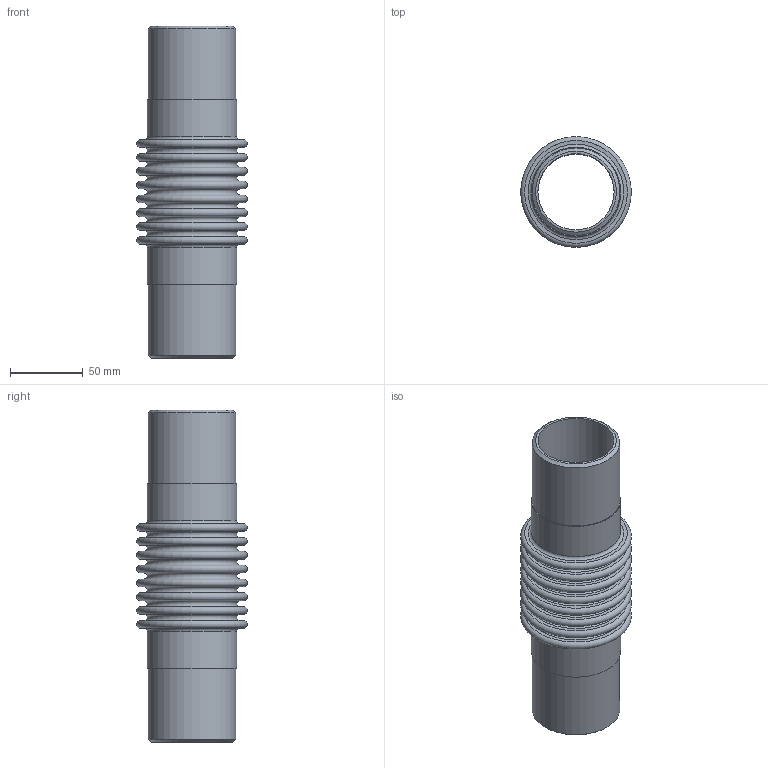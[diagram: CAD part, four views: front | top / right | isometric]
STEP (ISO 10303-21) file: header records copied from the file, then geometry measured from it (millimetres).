
FILE_DESCRIPTION(/* description */ (''),/* implementation_level */ '2;1');
FILE_NAME(/* name */ 'PIPE- 2 - 150 PSIG ASSEMBLY PART.stp',/* time_stamp */ '2026-07-24T15:29:28-05:00',/* author */ ('jorgef'),/* organization */ (''),/* preprocessor_version */ 'ST-DEVELOPER v20.1',/* originating_system */ 'Autodesk Inventor 2026',/* authorisation */ '');
FILE_SCHEMA (('AUTOMOTIVE_DESIGN { 1 0 10303 214 3 1 1 }'));
Length unit declared in the file: inch
Products named in the file (1): PIPE- 2 - 150 PSIG ASSEMBLY PART
Bounding box: 76.2 x 76.2 x 228.6 mm (x, y, z)
Volume: 131827.2 mm3; surface area: 125707.5 mm2
Topology: 1 solids, 1 shells, 80 faces, 126 edges, 84 vertices
Faces by surface type: plane 38, torus 34, cylinder 6, cone 2
Full cylindrical faces by diameter (mm): 52.502 x2, 60.325 x2, 61.544 x2
Entity records: 2035 total; most frequent: DIRECTION 406, CARTESIAN_POINT 291, ORIENTED_EDGE 252, AXIS2_PLACEMENT_3D 199, EDGE_CURVE 126, EDGE_LOOP 118, CIRCLE 118, VERTEX_POINT 84
